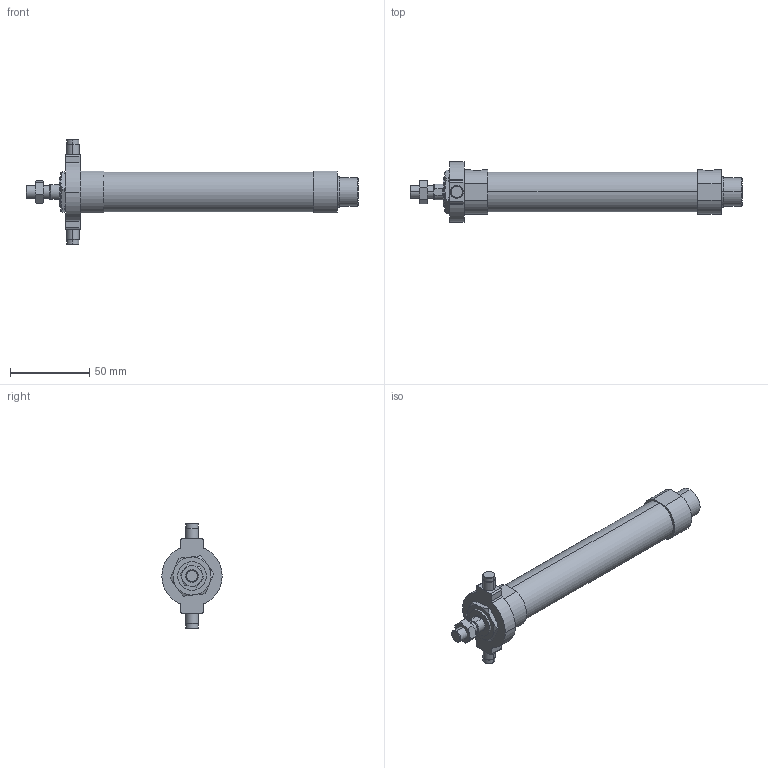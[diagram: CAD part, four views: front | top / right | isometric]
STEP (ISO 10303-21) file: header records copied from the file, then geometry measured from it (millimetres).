
FILE_DESCRIPTION (( 'STEP AP203' ), '1' );
FILE_NAME ('J#2-20-100-T.STEP', '2016-03-08T07:02:59', ( '' ), ( '' ), 'SwSTEP 2.0', 'SolidWorks 2014', '' );
FILE_SCHEMA (( 'CONFIG_CONTROL_DESIGN' ));
Length unit declared in the file: millimetre
Products named in the file (5): J#2-20-T; J#2-20-100-T; J#2-20-100
Assembly tree (4 placements, depth 2):
  J#2-20-100-T
    J#2-20-100
    (unnamed)
    (unnamed)
    J#2-20-T
Bounding box: 209 x 38 x 66 mm (x, y, z)
Volume: 100418.8 mm3; surface area: 22850.7 mm2
Topology: 4 solids, 4 shells, 131 faces, 291 edges, 180 vertices
Faces by surface type: cylinder 47, plane 46, torus 24, cone 14
Entity records: 4496 total; most frequent: CARTESIAN_POINT 1065, DIRECTION 639, ORIENTED_EDGE 582, EDGE_CURVE 291, AXIS2_PLACEMENT_3D 266, VERTEX_POINT 180, EDGE_LOOP 149, ADVANCED_FACE 131
